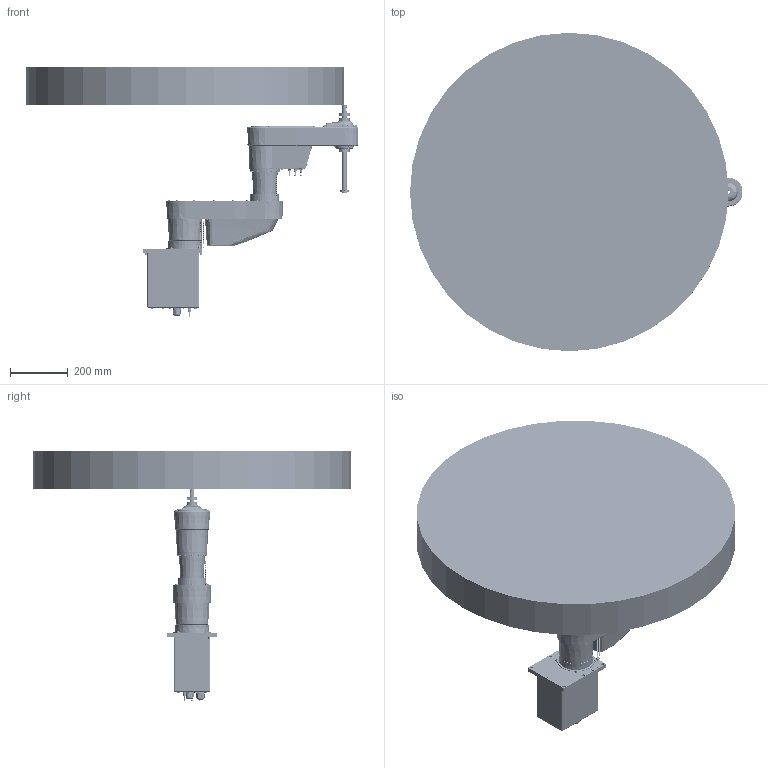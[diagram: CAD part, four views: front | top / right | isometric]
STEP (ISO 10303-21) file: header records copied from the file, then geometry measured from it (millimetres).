
FILE_DESCRIPTION (( 'STEP AP203' ), '1' );
FILE_NAME ('Python550F-B6C 1.22FB3.00.000.S.STEP', '2025-05-22T03:12:19', ( '' ), ( '' ), 'SwSTEP 2.0', 'SolidWorks 2021', '' );
FILE_SCHEMA (( 'CONFIG_CONTROL_DESIGN' ));
Length unit declared in the file: millimetre
Products named in the file (74): 252525; M22呿諉芛; PP4-管塞; 1111; Python550F-B3(.J)一轴减速机装配体; 内六角圆柱头螺钉、弹垫和平垫组合件德标 M4×10 A2-70 DIN912_M4*10; 内六角锥端紧定螺钉 M4x5 A2 GBT78_M4*5; 2222555; 1.22FB3.23.006.A; 1.22FB3.22.014.F; 复件 内六角圆柱头螺钉 M4×12 A2-70  GBT70.1^小臂部分_M4*12; 湍腑偌聽; ﾐ｡ｱｭﾍｷM3｡ﾁ10｡ﾁ4.5ﾍｷ; Python550F-B6馱釬諾潔; 呿諉芛蹟譫; 内六角圆柱头螺钉 M3×20  A2-70  GBT70.1_M3*20; 苤旋窒煦; 内六角圆柱头螺钉、弹垫和平垫组合件德标 M4×12 A2-70 DIN912_M4*12; 1.22FB3.23.005.G; Python550F-B6C  1.22FB3.00.000.S; 1.22FB3.21.007.G; 1.22FB3.21.008.E; 复件 内六角圆柱头螺钉 M4×8 A2-70  GBT70.1^444775757575_M4*8; 复件 内六角圆柱头螺钉 M4×8 A2-70  GBT70.1^小臂部分_M4*8; 1.22FB3.21.001.K; 1.22FB3.22.007.L; 444775757575; 内六角圆柱头螺钉 M4×16 A2-70  GBT70.1_M4*16; 标准型弹性垫圈(装配) 4×1.1 （A2）304  GB／T93_4*1.1; 内六角圆柱头螺钉 M4×10 A2-70  GBT70.1_M4*10; 扥坫粟銅汋20cm; 22222; 内六角圆柱头螺钉 M4×8 12.9级碳钢镀镍 GBT70.1_M4*6; 2.00601.02.058.A APM4__3_; 1.22FB3.21.021.A; 葩璃 111222^444775757575; 1.22FB3.23.001.D; 葩璃 44475757^444775757575; 1.22FB3.21.022.G; 1.22FB3.22.001.K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
Assembly tree (239 placements, depth 5):
  Python550F-B6C  1.22FB3.00.000.S
    菁釱窒煦
      1.22FB3.21.001.K
      Python550F-T6(.K)底座罩壳及接头装配体
        1.22FB3.21.007.G
        1.22FB3.21.008.E
        1.22FB3.21.009.B
        2.00601.02.058.A APM4__3_  x3
        DB15諉芛
        M22呿諉芛  x2
          M22呿諉芛
          M22呿諉芛蹟簽
          呿諉芛蹟譫
        PP4-管塞  x3
        孔塞
        内六角圆柱头螺钉 M4×8 12.9级碳钢镀镍 GBT70.1_M4*6  x9
        内六角圆柱头螺钉 M3×8 12.9级碳钢镀镍  GBT70.1_M3*12  x7
      内六角圆柱头螺钉 M4×25 12.9级碳钢镀镍 GBT70.1_M4*6  x16
      1.22FB3.21.011.J
      标准型弹性垫圈(装配) 4×1.1 （A2）304  GB／T93_4*1.1  x2
      内六角圆柱头螺钉 M4×12 12.9级碳钢镀镍 GBT70.1_M4*6  x2
      平垫圈A级 4×0.8  （A2）304  GB／T97．1_4*0.8  x2
      内六角圆柱头螺钉 M4×8 12.9级碳钢镀镍 GBT70.1_M4*6  x4
      STM-0
      扥坫粟銅汋20cm
    湮旋窒煦
      Python550F-B3(.J)一轴减速机装配体
        1.22FB3.21.022.G
        7777771111
        内六角圆柱头螺钉 M4×30 A2-70  GBT70.1_M4*30  x12
      1.22FB3.21.013.S
      1.22FB3.21.016.H
      1.22FB3.21.014.F
      1.22FB3.21.021.A
      1.22FB3.22.013.I
      复件 内六角圆柱头螺钉 M4×8 A2-70  GBT70.1^大臂部分_M4*8  x23
      内六角圆柱头螺钉、弹垫和平垫组合件德标 M4×12 A2-70 DIN912_M4*12
      内六角圆柱头螺钉、弹垫和平垫组合件德标 M4×10 A2-70 DIN912_M4*10  x2
      复件 伸缩弹簧绳20cm^大臂部分  x2
    苤旋窒煦
      1.22FB3.22.007.L
      1.22FB3.22.008.K
      1.22FB3.22.001.K
      444775757575
        1.22FB3.22.014.F
        葩璃 4445555^444775757575  x3
        湍腑偌聽
        葩璃 111222^444775757575
        葩璃 44475757^444775757575  x3
        复件 内六角圆柱头螺钉 M4×8 A2-70  GBT70.1^444775757575_M4*8  x8
      1.22FB3.23.006.A
      47777577
      1.22FB3.22.012.F
      1.22FB3.23.005.G
      1.22FB3.23.012.0
      内六角圆柱头螺钉 M4×16 A2-70  GBT70.1_M4*16  x12
      复件 内六角圆柱头螺钉 M4×12 A2-70  GBT70.1^小臂部分_M4*12  x11
      内六角圆柱头螺钉 M4×10 A2-70  GBT70.1_M4*10  x5
      复件 内六角圆柱头螺钉 M3×8  A2-70  GBT70.1^小臂部分_M3*8  x2
      内六角圆柱头螺钉 M3×20  A2-70  GBT70.1_M3*20  x16
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Bounding box: 1146.99 x 1099.99 x 862.5 mm (x, y, z)
Volume: 126863508.2 mm3; surface area: 4107056.5 mm2
Topology: 243 solids, 390 shells, 8734 faces, 20652 edges, 12835 vertices
Faces by surface type: cylinder 2981, plane 2870, cone 1264, torus 977, bspline 454, sphere 188
Entity records: 284155 total; most frequent: CARTESIAN_POINT 146253, DIRECTION 27621, ORIENTED_EDGE 24838, EDGE_CURVE 12623, AXIS2_PLACEMENT_3D 11436, VERTEX_POINT 8058, EDGE_LOOP 6497, CIRCLE 6290
